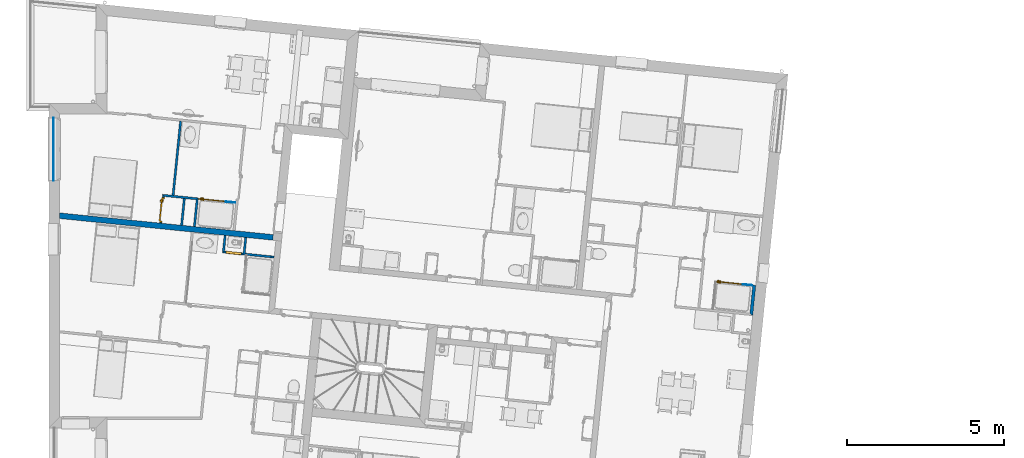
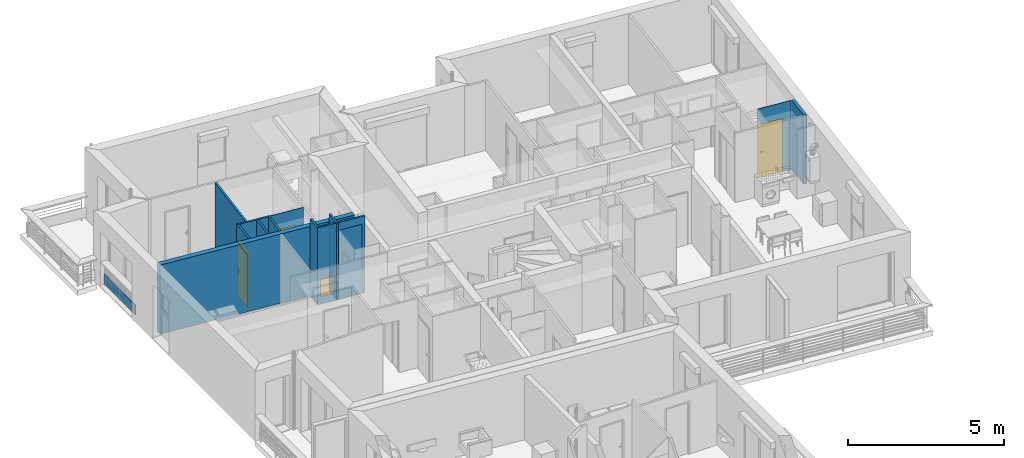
# One storey, part 60 of 164: 15 walls, 4 doors, 4 openings.
"""IFC2X3 building model written with IfcOpenShell, lengths in millimetres."""

from ifc_helpers import new_model, entity, si_unit, converted_unit, derived_unit, money_unit, direction, frame, origin_with_axes, origin_2d_with_axis, place, context, subcontext, project, spatial, polyline, rectangle, outline, extrude, faceted_brep, source, transform, mapped, material, layer, layer_set, layer_usage, type_object, element, fill, save


model = new_model("IFC2X3")

# Units and contexts
model_context = context("Model", 3, precision=0.01, world=origin_with_axes(), true_north=direction((0.0, 1.0)))
body_context = subcontext(model_context, "Body", "Model", "MODEL_VIEW")
ifc_project = project(units=[si_unit("LENGTHUNIT", "METRE", prefix="MILLI"), si_unit("AREAUNIT", "SQUARE_METRE"), si_unit("VOLUMEUNIT", "CUBIC_METRE"), converted_unit("PLANEANGLEUNIT", "DEGREE", entity("IfcPlaneAngleMeasure", 0.0174532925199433), si_unit("PLANEANGLEUNIT", "RADIAN"), dimensions=[0, 0, 0, 0, 0, 0, 0]), money_unit("USD"), converted_unit("TIMEUNIT", "Year", entity("IfcTimeMeasure", 31557600.0), si_unit("TIMEUNIT", "SECOND"), dimensions=[0, 0, 1, 0, 0, 0, 0]), si_unit("MASSUNIT", "GRAM", prefix="KILO"), si_unit("THERMODYNAMICTEMPERATUREUNIT", "DEGREE_CELSIUS"), si_unit("LUMINOUSINTENSITYUNIT", "LUMEN"), si_unit("ENERGYUNIT", "JOULE", prefix="MEGA"), derived_unit("THERMALCONDUCTANCEUNIT", [(si_unit("POWERUNIT", "WATT"), 1), (si_unit("LENGTHUNIT", "METRE"), -1), (si_unit("THERMODYNAMICTEMPERATUREUNIT", "KELVIN"), -1)]), derived_unit("SPECIFICHEATCAPACITYUNIT", [(si_unit("ENERGYUNIT", "JOULE"), 1), (si_unit("MASSUNIT", "GRAM", prefix="KILO"), -1), (si_unit("THERMODYNAMICTEMPERATUREUNIT", "KELVIN"), -1)]), derived_unit("MASSDENSITYUNIT", [(si_unit("MASSUNIT", "GRAM", prefix="KILO"), 1), (si_unit("VOLUMEUNIT", "CUBIC_METRE"), -1)])], contexts=[model_context])

# Site, building, storey
site_placement = place(None, origin_with_axes())
site = spatial("IfcSite", under=ifc_project, at=site_placement, Name="Site", CompositionType="ELEMENT")
building_placement = place(site_placement, origin_with_axes())
building = spatial("IfcBuilding", under=site, at=building_placement, Name="Bâtiment", CompositionType="ELEMENT")
storey_placement = place(building_placement, frame((0.0, 0.0, 5750.0), z_axis=(0.0, 0.0, 1.0), x_axis=(1.0, 0.0, 0.0)))
storey = spatial("IfcBuildingStorey", under=building, at=storey_placement, Name="Etage1", CompositionType="ELEMENT", Elevation=5750.0)

# Walls
ifc_material_1 = material(Name="Parpaing 314940890")
ifc_layer_1 = layer(ifc_material_1, 180.0, ventilated="UNKNOWN")
ifc_layer_set_1 = layer_set([ifc_layer_1], Name="Beton  18 0018356637")
ifc_layer_usage_1 = layer_usage(ifc_layer_set_1, "AXIS2", "NEGATIVE", 0.0)
wall_type_1 = type_object("IfcWallType", Name="Beton  18 0018356637 180", PredefinedType="NOTDEFINED")
wall_1_placement = place(storey_placement, frame((2224041.596288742, -611556.7271089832, 0.0), z_axis=(0.0, 0.0, 1.0), x_axis=(-0.9948759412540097, 0.1011032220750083, 0.0)))
element("IfcWallStandardCase", 1, at=wall_1_placement, inside=storey, type_object=wall_type_1, material=ifc_layer_usage_1, Name="Mur-143", context=body_context, shape_type="SweptSolid", body=[
    extrude(outline(polyline([(279.9999999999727, -180.0000000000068), (7122.055353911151, -179.9999999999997), (7103.763043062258, 0.0), (280.0000000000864, 0.0), (279.9999999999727, -180.0000000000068)])), origin_with_axes(), (0.0, 0.0, 1.0), 2700.0),
])
ifc_material_2 = material(Name="Hachure solide 268963992")
ifc_layer_2 = layer(ifc_material_2, 70.0, ventilated="UNKNOWN")
ifc_layer_set_2 = layer_set([ifc_layer_2], Name="Cloison 70 0826278243")
ifc_layer_usage_2 = layer_usage(ifc_layer_set_2, "AXIS2", "NEGATIVE", 70.0)
wall_type_2 = type_object("IfcWallType", Name="Cloison 70 0826278243 70", PredefinedType="NOTDEFINED")
wall_2_placement = place(storey_placement, frame((2222810.364815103, -612001.0996365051, 0.0), z_axis=(0.0, 0.0, 1.0), x_axis=(0.9948666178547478, -0.1011949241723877, 0.0)))
element("IfcWallStandardCase", 2, at=wall_2_placement, inside=storey, type_object=wall_type_2, material=ifc_layer_usage_2, Name="Mur-148", context=body_context, shape_type="SweptSolid", body=[
    extrude(outline(polyline([(70.00000029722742, 0.0), (900.000000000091, 0.0), (900.000000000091, 70.00000000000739), (69.99354805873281, 70.00000000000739), (70.00000029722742, 0.0)])), origin_with_axes(), (0.0, 0.0, 1.0), 2700.0),
])

# Wall, opening, door
ifc_layer_usage_3 = layer_usage(ifc_layer_set_2, "AXIS2", "POSITIVE", -70.0)
wall_3_placement = place(storey_placement, frame((2220139.321561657, -611160.1625405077, 0.0), z_axis=(0.0, 0.0, 1.0), x_axis=(0.1009367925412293, 0.9948928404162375, 0.0)))
wall_3 = element("IfcWallStandardCase", 3, at=wall_3_placement, inside=storey, type_object=wall_type_2, material=ifc_layer_usage_3, Name="Mur-149", context=body_context, shape_type="SweptSolid", body=[
    extrude(outline(polyline([(179.9882925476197, -70.00000000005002), (1034.379481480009, -69.99999999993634), (1104.391192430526, 0.0), (180.0000025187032, 0.0), (179.9882925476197, -70.00000000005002)])), origin_with_axes(), (0.0, 0.0, 1.0), 2700.0),
])
opening_1_placement = place(wall_3_placement, frame((601.5972685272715, -2.273736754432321e-10, 0.0), z_axis=(0.0, 0.0, 1.0), x_axis=(1.0, 0.0, 0.0)))
opening_1 = element("IfcOpeningElement", 4, at=opening_1_placement, cuts=wall_3, Name="Por-284", context=body_context, shape_type="SweptSolid", body=[
    extrude(rectangle(XDim=809.9999880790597, YDim=2080.0, at=origin_2d_with_axis()), frame((5.960465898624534e-06, -70.00000000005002, 1040.0), z_axis=(0.0, -1.0, 0.0), x_axis=(-1.0, 0.0, 0.0)), (0.0, 0.0, -1.0), 140.0),
])
door_style = type_object("IfcDoorStyle", Name="Porte_1v", ConstructionType="NOTDEFINED", OperationType="NOTDEFINED", ParameterTakesPrecedence=False, Sizeable=False)
shared_shape_1 = source(origin_with_axes(), body_context, "Body", "Brep", [
    faceted_brep([(-404.9999999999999, 0.0, 0.0), (-404.9999999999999, 0.0, 2080.0), (404.9999999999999, 0.0, 2080.0), (404.9999999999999, 0.0, 0.0), (364.9999999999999, 0.0, 0.0), (364.9999999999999, 0.0, 2040.0), (-364.9999999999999, 0.0, 2040.0), (-364.9999999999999, 0.0, 0.0), (-404.9999999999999, -69.99999999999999, 0.0), (-404.9999999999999, -69.99999999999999, 2080.0), (404.9999999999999, -69.99999999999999, 2080.0), (404.9999999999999, -69.99999999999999, 0.0), (349.9999999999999, -69.99999999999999, 0.0), (349.9999999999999, -15.0, 0.0), (364.9999999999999, -15.0, 0.0), (364.9999999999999, -15.0, 2040.0), (-364.9999999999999, -15.0, 2040.0), (-364.9999999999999, -15.0, 0.0), (-349.9999999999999, -15.0, 0.0), (-349.9999999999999, -69.99999999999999, 0.0), (-349.9999999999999, -69.99999999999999, 2025.0), (349.9999999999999, -69.99999999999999, 2025.0), (349.9999999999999, -15.0, 2025.0), (-349.9999999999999, -15.0, 2025.0)], [[[0, 1, 2, 3, 4, 5, 6, 7]], [[8, 9, 1, 0]], [[9, 10, 2, 1]], [[10, 11, 3, 2]], [[3, 11, 12, 13, 14, 4]], [[5, 4, 14, 15]], [[6, 5, 15, 16]], [[7, 6, 16, 17]], [[0, 7, 17, 18, 19, 8]], [[19, 20, 21, 12, 11, 10, 9, 8]], [[22, 13, 12, 21]], [[17, 16, 15, 14, 13, 22, 23, 18]], [[18, 23, 20, 19]], [[23, 22, 21, 20]]]),
    faceted_brep([(299.9999999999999, -15.0, 900.0), (299.9999999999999, -15.0, 1100.0), (339.9999999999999, -15.0, 1100.0), (339.9999999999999, -15.0, 900.0), (299.9999999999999, -24.99999999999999, 900.0), (299.9999999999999, -24.99999999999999, 1100.0), (339.9999999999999, -24.99999999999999, 1100.0), (339.9999999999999, -24.99999999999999, 900.0)], [[[0, 1, 2, 3]], [[0, 4, 5, 1]], [[1, 5, 6, 2]], [[2, 6, 7, 3]], [[3, 7, 4, 0]], [[7, 6, 5, 4]]]),
    faceted_brep([(229.9999999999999, -24.99999999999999, 1000.0), (229.9999999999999, -24.99999999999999, 1020.0), (329.9999999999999, -24.99999999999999, 1020.0), (329.9999999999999, -24.99999999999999, 1000.0), (229.9999999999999, -44.99999999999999, 1000.0), (229.9999999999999, -44.99999999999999, 1020.0), (329.9999999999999, -44.99999999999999, 1020.0), (329.9999999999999, -44.99999999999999, 1000.0)], [[[0, 1, 2, 3]], [[0, 4, 5, 1]], [[1, 5, 6, 2]], [[2, 6, 7, 3]], [[3, 7, 4, 0]], [[7, 6, 5, 4]]]),
    faceted_brep([(299.9999999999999, 34.99999999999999, 900.0), (299.9999999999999, 34.99999999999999, 1100.0), (339.9999999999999, 34.99999999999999, 1100.0), (339.9999999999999, 34.99999999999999, 900.0), (299.9999999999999, 24.99999999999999, 900.0), (299.9999999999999, 24.99999999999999, 1100.0), (339.9999999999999, 24.99999999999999, 1100.0), (339.9999999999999, 24.99999999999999, 900.0)], [[[0, 1, 2, 3]], [[0, 4, 5, 1]], [[1, 5, 6, 2]], [[2, 6, 7, 3]], [[3, 7, 4, 0]], [[7, 6, 5, 4]]]),
    faceted_brep([(229.9999999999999, 54.99999999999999, 1000.0), (229.9999999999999, 54.99999999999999, 1020.0), (329.9999999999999, 54.99999999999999, 1020.0), (329.9999999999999, 54.99999999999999, 1000.0), (229.9999999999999, 34.99999999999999, 1000.0), (229.9999999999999, 34.99999999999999, 1020.0), (329.9999999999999, 34.99999999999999, 1020.0), (329.9999999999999, 34.99999999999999, 1000.0)], [[[0, 1, 2, 3]], [[0, 4, 5, 1]], [[1, 5, 6, 2]], [[2, 6, 7, 3]], [[3, 7, 4, 0]], [[7, 6, 5, 4]]]),
    faceted_brep([(364.9999999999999, 24.99999999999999, 0.0), (364.9999999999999, -15.0, 0.0), (-364.9999999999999, -15.0, 0.0), (-364.9999999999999, 24.99999999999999, 0.0), (364.9999999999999, 24.99999999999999, 2040.0), (364.9999999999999, -15.0, 2040.0), (-364.9999999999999, -15.0, 2040.0), (-364.9999999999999, 24.99999999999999, 2040.0)], [[[0, 1, 2, 3]], [[4, 5, 1, 0]], [[1, 5, 6, 2]], [[3, 2, 6, 7]], [[0, 3, 7, 4]], [[7, 6, 5, 4]]]),
])
door_1_placement = place(opening_1_placement, frame((-365.000000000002, 0.0, 0.0), z_axis=(0.0, 0.0, 1.0), x_axis=(1.0, 0.0, 0.0)))
door_1 = element("IfcDoor", 5, at=door_1_placement, inside=storey, type_object=door_style, Name="Por-284", OverallHeight=2040.0, OverallWidth=730.0, context=body_context, shape_type="MappedRepresentation", body=[
    mapped(shared_shape_1, transform((365.000000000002, -1.13686837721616e-10, 0.0))),
])
fill(opening_1, door_1)

# Walls
ifc_layer_usage_4 = layer_usage(ifc_layer_set_2, "AXIS2", "NEGATIVE", 70.0)
wall_4_placement = place(storey_placement, frame((2220792.331357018, -607732.7997803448, 0.0), z_axis=(0.0, 0.0, 1.0), x_axis=(-0.1010339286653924, -0.9948829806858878, 0.0)))
element("IfcWallStandardCase", 6, at=wall_4_placement, inside=storey, type_object=wall_type_2, material=ifc_layer_usage_4, Name="Mur-149", context=body_context, shape_type="SweptSolid", body=[
    extrude(outline(polyline([(0.0, 0.0), (2371.430975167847, 0.0), (2371.435850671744, 70.00000000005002), (0.004875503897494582, 70.00000000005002), (0.0, 0.0)])), origin_with_axes(), (0.0, 0.0, 1.0), 2700.0),
])
ifc_layer_usage_5 = layer_usage(ifc_layer_set_2, "AXIS2", "NEGATIVE", 70.0)
wall_5_placement = place(storey_placement, frame((2221395.074967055, -610177.6978722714, 0.0), z_axis=(0.0, 0.0, 1.0), x_axis=(-0.9948759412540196, 0.1011032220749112, 0.0)))
element("IfcWallStandardCase", 7, at=wall_5_placement, inside=storey, type_object=wall_type_2, material=ifc_layer_usage_5, Name="Mur-149", context=body_context, shape_type="SweptSolid", body=[
    extrude(outline(polyline([(0.0, 0.0), (1150.17325605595, 0.0), (1080.161545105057, 69.99999999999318), (69.98829100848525, 70.00000000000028), (0.0, 0.0)])), origin_with_axes(), (0.0, 0.0, 1.0), 2700.0),
])
ifc_layer_usage_6 = layer_usage(ifc_layer_set_2, "AXIS2", "NEGATIVE", 70.0)
wall_6_placement = place(storey_placement, frame((2221283.60126238, -611276.4487626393, 0.0), z_axis=(0.0, 0.0, 1.0), x_axis=(0.1009367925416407, 0.9948928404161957, 0.0)))
element("IfcWallStandardCase", 8, at=wall_6_placement, inside=storey, type_object=wall_type_2, material=ifc_layer_usage_6, Name="Mur-149", context=body_context, shape_type="SweptSolid", body=[
    extrude(outline(polyline([(180.0000025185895, 0.0), (1104.391192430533, 0.0), (1034.402901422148, 70.00000000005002), (180.0117124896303, 69.99999999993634), (180.0000025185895, 0.0)])), origin_with_axes(), (0.0, 0.0, 1.0), 2700.0),
])
ifc_layer_usage_7 = layer_usage(ifc_layer_set_2, "AXIS2", "POSITIVE", -70.0)
wall_7_placement = place(storey_placement, frame((2220805.888442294, -611227.9016992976, 0.0), z_axis=(0.0, 0.0, 1.0), x_axis=(0.1009367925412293, 0.9948928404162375, 0.0)))
element("IfcWallStandardCase", 9, at=wall_7_placement, inside=storey, type_object=wall_type_2, material=ifc_layer_usage_7, Name="Mur-149", context=body_context, shape_type="SweptSolid", body=[
    extrude(outline(polyline([(179.9882925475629, -69.99999999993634), (1034.379481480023, -70.00000000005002), (1034.391191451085, 1.13686837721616e-10), (180.0000025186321, 1.13686837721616e-10), (179.9882925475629, -69.99999999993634)])), origin_with_axes(), (0.0, 0.0, 1.0), 2700.0),
])

# Wall, opening, door
ifc_layer_usage_8 = layer_usage(ifc_layer_set_2, "AXIS2", "NEGATIVE", 70.0)
wall_8_placement = place(storey_placement, frame((2222153.765378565, -611934.1010089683, 0.0), z_axis=(0.0, 0.0, 1.0), x_axis=(0.9948529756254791, -0.1013289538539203, 0.0)))
wall_8 = element("IfcWallStandardCase", 10, at=wall_8_placement, inside=storey, type_object=wall_type_2, material=ifc_layer_usage_8, Name="Mur-148", context=body_context, shape_type="SweptSolid", body=[
    extrude(outline(polyline([(1.67574398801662e-07, 0.0), (1660.003879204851, 0.0), (1659.987996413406, 70.00000000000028), (69.98411917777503, 70.00000000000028), (1.67574398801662e-07, 0.0)])), origin_with_axes(), (0.0, 0.0, 1.0), 3000.0),
])
opening_2_placement = place(wall_8_placement, frame((360.1198190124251, 0.0, 299.9999999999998), z_axis=(0.0, 0.0, 1.0), x_axis=(1.0, 0.0, 0.0)))
opening_2 = element("IfcOpeningElement", 11, at=opening_2_placement, cuts=wall_8, Name="Por-249", context=body_context, shape_type="SweptSolid", body=[
    extrude(rectangle(XDim=489.9999985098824, YDim=669.9999999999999, at=origin_2d_with_axis()), frame((-7.449898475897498e-07, 70.00000000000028, 334.9999999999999), z_axis=(0.0, 1.0, 0.0), x_axis=(1.0, 0.0, 0.0)), (0.0, 0.0, -1.0), 140.0),
])
shared_shape_2 = source(origin_with_axes(), body_context, "Body", "Brep", [
    faceted_brep([(-245.0, 0.0, 0.0), (-245.0, 0.0, 670.0), (245.0, 0.0, 670.0), (245.0, 0.0, 0.0), (225.0, 0.0, 0.0), (225.0, 0.0, 650.0), (-225.0, 0.0, 650.0), (-225.0, 0.0, 0.0), (-245.0, -70.0, 0.0), (-245.0, -70.0, 670.0), (245.0, -70.0, 670.0), (245.0, -70.0, 0.0), (210.0, -70.0, 0.0), (210.0, -15.0, 0.0), (225.0, -15.0, 0.0), (225.0, -15.0, 650.0), (-225.0, -15.0, 650.0), (-225.0, -15.0, 0.0), (-210.0, -15.0, 0.0), (-210.0, -70.0, 0.0), (-210.0, -70.0, 635.0), (210.0, -70.0, 635.0), (210.0, -15.0, 635.0), (-210.0, -15.0, 635.0)], [[[0, 1, 2, 3, 4, 5, 6, 7]], [[8, 9, 1, 0]], [[9, 10, 2, 1]], [[10, 11, 3, 2]], [[3, 11, 12, 13, 14, 4]], [[5, 4, 14, 15]], [[6, 5, 15, 16]], [[7, 6, 16, 17]], [[0, 7, 17, 18, 19, 8]], [[19, 20, 21, 12, 11, 10, 9, 8]], [[22, 13, 12, 21]], [[17, 16, 15, 14, 13, 22, 23, 18]], [[18, 23, 20, 19]], [[23, 22, 21, 20]]]),
    faceted_brep([(225.0, 5.000000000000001, 0.0), (225.0, -15.0, 0.0), (-225.0, -15.0, 0.0), (-225.0, 5.000000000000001, 0.0), (225.0, 5.000000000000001, 650.0), (225.0, -15.0, 650.0), (-225.0, -15.0, 650.0), (-225.0, 5.000000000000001, 650.0)], [[[0, 1, 2, 3]], [[4, 5, 1, 0]], [[1, 5, 6, 2]], [[3, 2, 6, 7]], [[0, 3, 7, 4]], [[7, 6, 5, 4]]]),
])
door_2_placement = place(opening_2_placement, frame((225.0000000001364, 0.0, 0.0), z_axis=(0.0, 0.0, 1.0), x_axis=(-1.0, 0.0, 0.0)))
door_2 = element("IfcDoor", 12, at=door_2_placement, inside=storey, type_object=door_style, Name="Por-249", OverallHeight=650.0, OverallWidth=450.0, context=body_context, shape_type="MappedRepresentation", body=[
    mapped(shared_shape_2, transform((225.0000000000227, 0.0, 0.0))),
])
fill(opening_2, door_2)

# Walls
ifc_material_3 = material(Name="MANQUANT")
ifc_layer_3 = layer(ifc_material_3, 20.0, ventilated="UNKNOWN")
ifc_layer_set_3 = layer_set([ifc_layer_3], Name="MANQUANT 20")
ifc_layer_usage_9 = layer_usage(ifc_layer_set_3, "AXIS2", "POSITIVE", -20.0)
wall_type_3 = type_object("IfcWallType", Name="MANQUANT 20", PredefinedType="NOTDEFINED")
wall_9_placement = place(storey_placement, frame((2216759.442105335, -609631.6055812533, 99.99999999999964), z_axis=(0.0, 0.0, 1.0), x_axis=(0.0, 1.0, 0.0)))
element("IfcWallStandardCase", 13, at=wall_9_placement, inside=storey, type_object=wall_type_3, material=ifc_layer_usage_9, Name="Mur-150", context=body_context, shape_type="SweptSolid", body=[
    extrude(outline(polyline([(0.0, -19.99999999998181), (1999.999999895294, -19.99999999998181), (1999.999999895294, 0.0), (0.0, 0.0), (0.0, -19.99999999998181)])), origin_with_axes(), (0.0, 0.0, 1.0), 400.0),
])
ifc_material_4 = material(Name="Hachure solide 269229667")
ifc_layer_4 = layer(ifc_material_4, 70.0, ventilated="UNKNOWN")
ifc_layer_set_4 = layer_set([ifc_layer_4], Name="Cloison 70 0836576958")
ifc_layer_usage_10 = layer_usage(ifc_layer_set_4, "AXIS2", "POSITIVE", 0.0)
wall_type_4 = type_object("IfcWallType", Name="Cloison 70 0836576958 70", PredefinedType="NOTDEFINED")
wall_10_placement = place(storey_placement, frame((2222867.647575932, -611437.425804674, 0.0), z_axis=(0.0, 0.0, 1.0), x_axis=(-0.1011032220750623, -0.9948759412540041, 0.0)))
element("IfcWallStandardCase", 14, at=wall_10_placement, inside=storey, type_object=wall_type_4, material=ifc_layer_usage_10, Name="Mur-148", context=body_context, shape_type="SweptSolid", body=[
    extrude(outline(polyline([(1.534772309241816e-09, 0.0), (566.5770056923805, 0.0), (566.577005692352, 69.99999999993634), (1.541877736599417e-09, 70.00000000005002), (1.534772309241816e-09, 0.0)])), origin_with_axes(), (0.0, 0.0, 1.0), 2700.0),
])
ifc_layer_usage_11 = layer_usage(ifc_layer_set_4, "AXIS2", "POSITIVE", 0.0)
wall_11_placement = place(storey_placement, frame((2222211.048139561, -611370.4271771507, 0.0), z_axis=(0.0, 0.0, 1.0), x_axis=(-0.1011032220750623, -0.9948759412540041, 0.0)))
element("IfcWallStandardCase", 15, at=wall_11_placement, inside=storey, type_object=wall_type_4, material=ifc_layer_usage_11, Name="Mur-148", context=body_context, shape_type="SweptSolid", body=[
    extrude(outline(polyline([(0.0, 0.0), (566.5770056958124, 0.0), (496.5928866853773, 70.00000000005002), (0.0, 70.00000000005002), (0.0, 0.0)])), origin_with_axes(), (0.0, 0.0, 1.0), 3000.0),
])
ifc_layer_usage_12 = layer_usage(ifc_layer_set_4, "AXIS2", "POSITIVE", 0.0)
wall_12_placement = place(storey_placement, frame((2222867.647575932, -611437.425804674, 0.0), z_axis=(0.0, 0.0, 1.0), x_axis=(-0.1011032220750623, -0.9948759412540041, 0.0)))
element("IfcWallStandardCase", 16, at=wall_12_placement, inside=storey, type_object=wall_type_4, material=ifc_layer_usage_12, Name="Mur-148", context=body_context, shape_type="SweptSolid", body=[
    extrude(outline(polyline([(1.534772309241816e-09, 0.0), (566.5770056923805, 0.0), (566.577005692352, 69.99999999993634), (1.541877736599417e-09, 70.00000000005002), (1.534772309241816e-09, 0.0)])), origin_with_axes(), (0.0, 0.0, 1.0), 3000.0),
])
ifc_layer_5 = layer(ifc_material_2, 100.0, ventilated="UNKNOWN")
ifc_layer_set_5 = layer_set([ifc_layer_5], Name="Cloison 100 0826278243")
ifc_layer_usage_13 = layer_usage(ifc_layer_set_5, "AXIS2", "POSITIVE", -100.0)
wall_type_5 = type_object("IfcWallType", Name="Cloison 100 0826278243 100", PredefinedType="NOTDEFINED")
wall_13_placement = place(storey_placement, frame((2239159.512419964, -612967.7578331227, 0.0), z_axis=(0.0, 0.0, 1.0), x_axis=(-0.1012357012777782, -0.9948624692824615, 0.0)))
element("IfcWallStandardCase", 17, at=wall_13_placement, inside=storey, type_object=wall_type_5, material=ifc_layer_usage_13, Name="Mur-149", context=body_context, shape_type="SweptSolid", body=[
    extrude(outline(polyline([(0.0, -100.0000000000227), (900.014065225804, -100.0000000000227), (970.0000006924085, -1.13686837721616e-10), (0.0, 0.0), (0.0, -100.0000000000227)])), origin_with_axes(), (0.0, 0.0, 1.0), 2700.0),
])

# Wall, opening, door
ifc_material_5 = material(Name="Empty Fill 292498448")
ifc_layer_6 = layer(ifc_material_5, 20.0, ventilated="UNKNOWN")
ifc_layer_set_6 = layer_set([ifc_layer_6], Name="mur 2cm")
ifc_layer_usage_14 = layer_usage(ifc_layer_set_6, "AXIS2", "POSITIVE", -20.0)
wall_type_6 = type_object("IfcWallType", Name="mur 2cm 20", PredefinedType="NOTDEFINED")
wall_14_placement = place(storey_placement, frame((2237866.189861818, -612836.1646692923, 0.0), z_axis=(0.0, 0.0, 1.0), x_axis=(0.9947283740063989, -0.1025449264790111, 0.0)))
wall_14 = element("IfcWallStandardCase", 18, at=wall_14_placement, inside=storey, type_object=wall_type_6, material=ifc_layer_usage_14, Name="Mur-148", context=body_context, shape_type="SweptSolid", body=[
    extrude(outline(polyline([(0.0, -20.00000000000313), (1180.110441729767, -19.99999999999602), (1180.110441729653, 0.0), (0.0, 0.0), (0.0, -20.00000000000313)])), origin_with_axes(), (0.0, 0.0, 1.0), 2700.0),
])
opening_3_placement = place(wall_14_placement, frame((440.0000000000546, 0.0, 0.0), z_axis=(0.0, 0.0, 1.0), x_axis=(1.0, 0.0, 0.0)))
opening_3 = element("IfcOpeningElement", 19, at=opening_3_placement, cuts=wall_14, Name="Por-288", context=body_context, shape_type="SweptSolid", body=[
    extrude(rectangle(XDim=880.0000119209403, YDim=2080.0, at=origin_2d_with_axis()), frame((5.960600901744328e-06, -19.99999999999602, 1040.0), z_axis=(0.0, 1.0, 0.0), x_axis=(1.0, 0.0, 0.0)), (0.0, 0.0, 1.0), 40.0),
])
shared_shape_3 = source(origin_with_axes(), body_context, "Body", "Brep", [
    faceted_brep([(440.0, 0.0, 0.0), (400.0, 0.0, 0.0), (400.0, 0.0, 2040.0), (-400.0, 0.0, 2040.0), (-400.0, 0.0, 0.0), (-440.0, 0.0, 0.0), (-440.0, 0.0, 2080.0), (440.0, 0.0, 2080.0), (440.0, -20.0, 0.0), (385.0, -20.0, 0.0), (385.0, -15.0, 0.0), (400.0, -15.0, 0.0), (400.0, -15.0, 2040.0), (-400.0, -15.0, 2040.0), (-400.0, -15.0, 0.0), (-385.0, -15.0, 0.0), (-385.0, -20.0, 0.0), (-440.0, -20.0, 0.0), (-440.0, -20.0, 2080.0), (440.0, -20.0, 2080.0), (-385.0, -20.0, 2025.0), (385.0, -20.0, 2025.0), (385.0, -15.0, 2025.0), (-385.0, -15.0, 2025.0)], [[[0, 1, 2, 3, 4, 5, 6, 7]], [[0, 8, 9, 10, 11, 1]], [[1, 11, 12, 2]], [[2, 12, 13, 3]], [[3, 13, 14, 4]], [[5, 4, 14, 15, 16, 17]], [[18, 6, 5, 17]], [[19, 7, 6, 18]], [[8, 0, 7, 19]], [[9, 8, 19, 18, 17, 16, 20, 21]], [[10, 9, 21, 22]], [[11, 10, 22, 23, 15, 14, 13, 12]], [[23, 20, 16, 15]], [[22, 21, 20, 23]]]),
    faceted_brep([(-335.0, -15.0, 900.0), (-375.0, -15.0, 900.0), (-375.0, -15.0, 1100.0), (-335.0, -15.0, 1100.0), (-335.0, -25.0, 900.0), (-375.0, -25.0, 900.0), (-375.0, -25.0, 1100.0), (-335.0, -25.0, 1100.0)], [[[0, 1, 2, 3]], [[1, 0, 4, 5]], [[2, 1, 5, 6]], [[3, 2, 6, 7]], [[0, 3, 7, 4]], [[5, 4, 7, 6]]]),
    faceted_brep([(-265.0, -25.0, 1000.0), (-365.0, -25.0, 1000.0), (-365.0, -25.0, 1020.0), (-265.0, -25.0, 1020.0), (-265.0, -45.0, 1000.0), (-365.0, -45.0, 1000.0), (-365.0, -45.0, 1020.0), (-265.0, -45.0, 1020.0)], [[[0, 1, 2, 3]], [[1, 0, 4, 5]], [[2, 1, 5, 6]], [[3, 2, 6, 7]], [[0, 3, 7, 4]], [[5, 4, 7, 6]]]),
    faceted_brep([(-335.0, 15.0, 900.0), (-375.0, 15.0, 900.0), (-375.0, 15.0, 1100.0), (-335.0, 15.0, 1100.0), (-335.0, 5.000000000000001, 900.0), (-375.0, 5.000000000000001, 900.0), (-375.0, 5.000000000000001, 1100.0), (-335.0, 5.000000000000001, 1100.0)], [[[0, 1, 2, 3]], [[1, 0, 4, 5]], [[2, 1, 5, 6]], [[3, 2, 6, 7]], [[0, 3, 7, 4]], [[5, 4, 7, 6]]]),
    faceted_brep([(-265.0, 35.0, 1000.0), (-365.0, 35.0, 1000.0), (-365.0, 35.0, 1020.0), (-265.0, 35.0, 1020.0), (-265.0, 15.0, 1000.0), (-365.0, 15.0, 1000.0), (-365.0, 15.0, 1020.0), (-265.0, 15.0, 1020.0)], [[[0, 1, 2, 3]], [[1, 0, 4, 5]], [[2, 1, 5, 6]], [[3, 2, 6, 7]], [[0, 3, 7, 4]], [[5, 4, 7, 6]]]),
    faceted_brep([(-400.0, 5.000000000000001, 0.0), (400.0, 5.000000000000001, 0.0), (400.0, -15.0, 0.0), (-400.0, -15.0, 0.0), (-400.0, 5.000000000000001, 2040.0), (400.0, 5.000000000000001, 2040.0), (400.0, -15.0, 2040.0), (-400.0, -15.0, 2040.0)], [[[0, 1, 2, 3]], [[0, 4, 5, 1]], [[1, 5, 6, 2]], [[3, 2, 6, 7]], [[4, 0, 3, 7]], [[5, 4, 7, 6]]]),
])
door_3_placement = place(opening_3_placement, frame((-399.9999999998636, 0.0, 0.0), z_axis=(0.0, 0.0, 1.0), x_axis=(1.0, 0.0, 0.0)))
door_3 = element("IfcDoor", 20, at=door_3_placement, inside=storey, type_object=door_style, Name="Por-288", OverallHeight=2040.0, OverallWidth=800.0, context=body_context, shape_type="MappedRepresentation", body=[
    mapped(shared_shape_3, transform((399.9999999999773, 0.0, 0.0))),
])
fill(opening_3, door_3)

ifc_layer_usage_15 = layer_usage(ifc_layer_set_6, "AXIS2", "POSITIVE", -20.0)
wall_15_placement = place(storey_placement, frame((2221392.535379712, -610201.994009, 0.0), z_axis=(0.0, 0.0, 1.0), x_axis=(0.9948902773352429, -0.1009620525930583, 0.0)))
wall_15 = element("IfcWallStandardCase", 21, at=wall_15_placement, inside=storey, type_object=wall_type_6, material=ifc_layer_usage_15, Name="Mur-148", context=body_context, shape_type="SweptSolid", body=[
    extrude(outline(polyline([(0.0, -19.99999999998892), (1180.110441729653, -19.99999999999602), (1180.110441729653, 0.0), (0.0, 0.0), (0.0, -19.99999999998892)])), origin_with_axes(), (0.0, 0.0, 1.0), 2700.0),
])
opening_4_placement = place(wall_15_placement, frame((439.9999999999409, 0.0, 0.0), z_axis=(0.0, 0.0, 1.0), x_axis=(1.0, 0.0, 0.0)))
opening_4 = element("IfcOpeningElement", 22, at=opening_4_placement, cuts=wall_15, Name="Por-288", context=body_context, shape_type="SweptSolid", body=[
    extrude(rectangle(XDim=880.0000119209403, YDim=2080.0, at=origin_2d_with_axis()), frame((5.960373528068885e-06, -19.99999999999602, 1040.0), z_axis=(0.0, 1.0, 0.0), x_axis=(1.0, 0.0, 0.0)), (0.0, 0.0, 1.0), 40.0),
])
door_4_placement = place(opening_4_placement, frame((-399.9999999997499, 0.0, 0.0), z_axis=(0.0, 0.0, 1.0), x_axis=(1.0, 0.0, 0.0)))
door_4 = element("IfcDoor", 23, at=door_4_placement, inside=storey, type_object=door_style, Name="Por-288", OverallHeight=2040.0, OverallWidth=800.0, context=body_context, shape_type="MappedRepresentation", body=[
    mapped(shared_shape_3, transform((399.9999999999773, 0.0, 0.0))),
])
fill(opening_4, door_4)

save(model, "model.ifc")
